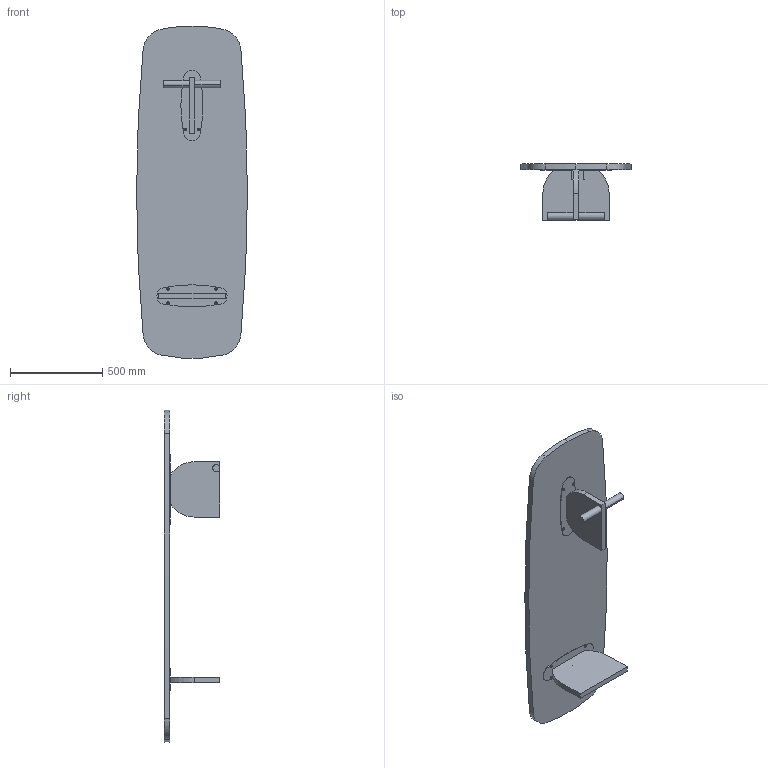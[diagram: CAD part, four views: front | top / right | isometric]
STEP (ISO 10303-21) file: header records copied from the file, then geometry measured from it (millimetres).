
FILE_DESCRIPTION (( 'STEP AP203' ), '1' );
FILE_NAME ('3D_NOVA_4_TABLE.STEP', '2024-03-27T14:56:36', ( '' ), ( '' ), 'SwSTEP 2.0', 'SolidWorks 2016', '' );
FILE_SCHEMA (( 'CONFIG_CONTROL_DESIGN' ));
Length unit declared in the file: millimetre
Products named in the file (7): V2_TABLERO_PATA_MESA_COFFEE_TABLE_INDIVIDUAL; V2_TABLERO_PATA_MESA_COFFEE_TABLE_INDIVIDUAL_TRASERA; V2_MACIZO_PARA_BASE_Ø40MM; CHAPA METALICA PATA TRASERA MESA COFFEE TABLE; 3D_NOVA_4_TABLE; V2_SOBRE_SUPERIOR_180CM_60CM_MESA_COFFEE_TABLE; TORNILLO M6x16 ALLEN AVELLANADO
Assembly tree (15 placements, depth 2):
  3D_NOVA_4_TABLE
    V2_SOBRE_SUPERIOR_180CM_60CM_MESA_COFFEE_TABLE
    V2_TABLERO_PATA_MESA_COFFEE_TABLE_INDIVIDUAL
    V2_TABLERO_PATA_MESA_COFFEE_TABLE_INDIVIDUAL_TRASERA
    CHAPA METALICA PATA TRASERA MESA COFFEE TABLE  x2
    V2_MACIZO_PARA_BASE_Ø40MM  x2
    TORNILLO M6x16 ALLEN AVELLANADO  x8
Bounding box: 600 x 303 x 1798.05 mm (x, y, z)
Volume: 35689549.6 mm3; surface area: 2759346.6 mm2
Topology: 15 solids, 15 shells, 257 faces, 571 edges, 370 vertices
Faces by surface type: plane 112, cylinder 81, cone 64
Entity records: 4521 total; most frequent: DIRECTION 704, CARTESIAN_POINT 592, ORIENTED_EDGE 544, AXIS2_PLACEMENT_3D 292, EDGE_CURVE 272, VERTEX_POINT 180, EDGE_LOOP 158, CIRCLE 152
